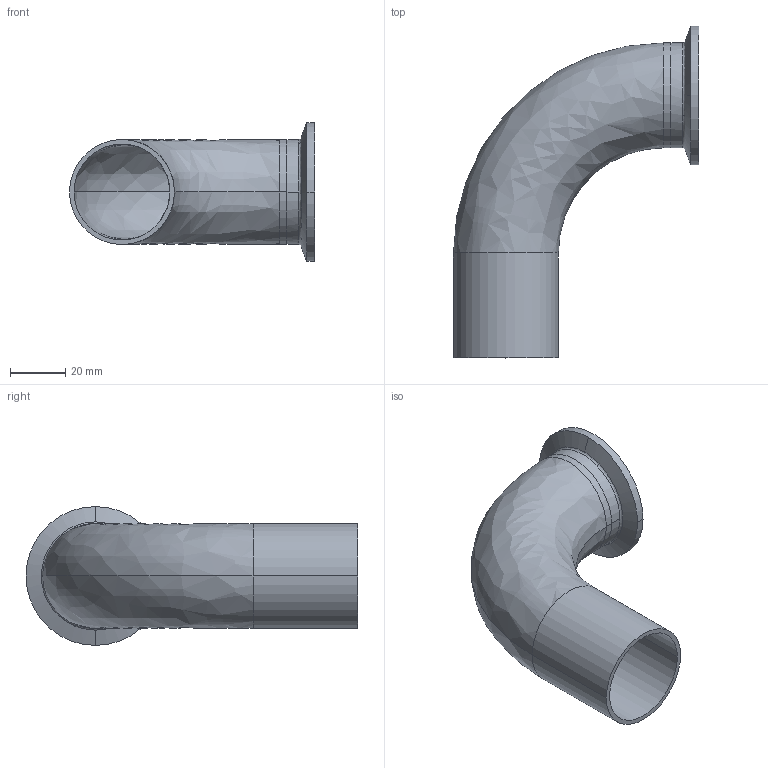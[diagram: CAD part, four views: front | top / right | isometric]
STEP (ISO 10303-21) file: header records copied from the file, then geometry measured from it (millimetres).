
FILE_DESCRIPTION (( 'STEP AP214' ), '1' );
FILE_NAME ('TE2C6L1.5-...STEP', '2016-05-22T09:32:23', ( 'eran' ), ( '' ), 'SwSTEP 2.0', 'SolidWorks 2016', '' );
FILE_SCHEMA (( 'AUTOMOTIVE_DESIGN' ));
Length unit declared in the file: millimetre
Products named in the file (1): TE2C6L1.5-..
Bounding box: 88.95 x 120.5 x 50.39 mm (x, y, z)
Volume: 29744.3 mm3; surface area: 34611.7 mm2
Topology: 2 solids, 2 shells, 39 faces, 94 edges, 60 vertices
Faces by surface type: bspline 14, cylinder 14, cone 6, plane 5
Entity records: 1888 total; most frequent: CARTESIAN_POINT 928, DIRECTION 208, ORIENTED_EDGE 188, AXIS2_PLACEMENT_3D 94, EDGE_CURVE 94, CIRCLE 68, VERTEX_POINT 60, EDGE_LOOP 44
